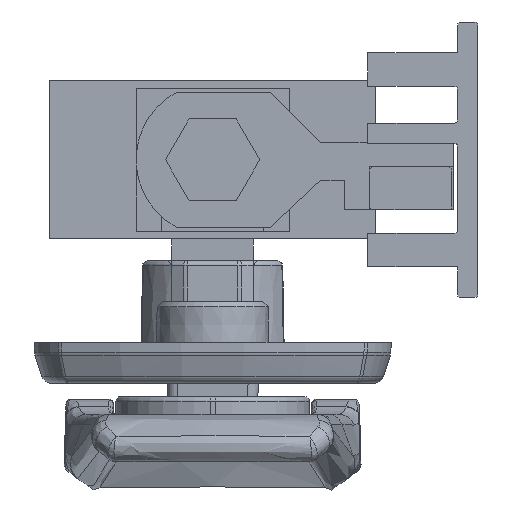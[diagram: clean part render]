
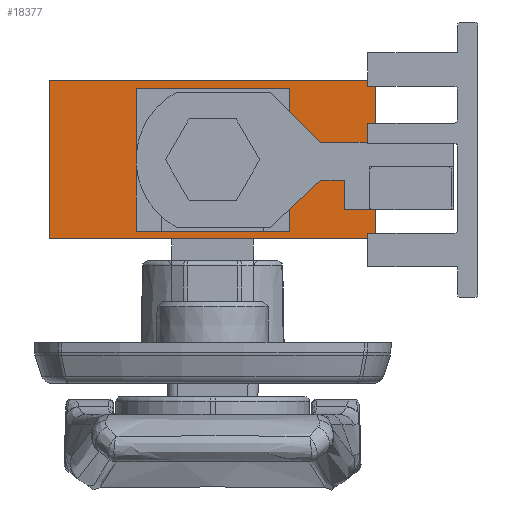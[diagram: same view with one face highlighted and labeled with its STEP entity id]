
A CAD part, front view. The second image highlights one B-rep face of the part: STEP entity #18377.
In plain terms, the highlighted planar face has unit normal (0, -1, 0).
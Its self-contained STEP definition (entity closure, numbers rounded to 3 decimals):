
#604 = LINE ( 'NONE', #27995, #14886 ) ;
#868 = EDGE_CURVE ( 'NONE', #3548, #5382, #5785, .T. ) ;
#1296 = CARTESIAN_POINT ( 'NONE',  ( -16., -199.25, -7.75 ) ) ;
#1352 = VERTEX_POINT ( 'NONE', #9110 ) ;
#1482 = FACE_BOUND ( 'NONE', #21635, .T. ) ;
#1522 = CARTESIAN_POINT ( 'NONE',  ( -16., -199.25, 7.75 ) ) ;
#1907 = VERTEX_POINT ( 'NONE', #15085 ) ;
#2316 = LINE ( 'NONE', #7864, #31371 ) ;
#2815 = DIRECTION ( 'NONE',  ( 0., 0., 1. ) ) ;
#3397 = EDGE_CURVE ( 'NONE', #19481, #3548, #2316, .T. ) ;
#3488 = CARTESIAN_POINT ( 'NONE',  ( 7., -199.25, 6.25 ) ) ;
#3548 = VERTEX_POINT ( 'NONE', #8327 ) ;
#4544 = VECTOR ( 'NONE', #9139, 1000. ) ;
#5382 = VERTEX_POINT ( 'NONE', #29354 ) ;
#5521 = VERTEX_POINT ( 'NONE', #1296 ) ;
#5785 = LINE ( 'NONE', #3488, #23484 ) ;
#5872 = VECTOR ( 'NONE', #10188, 1000. ) ;
#6346 = FACE_OUTER_BOUND ( 'NONE', #14421, .T. ) ;
#7296 = CARTESIAN_POINT ( 'NONE',  ( -7., -199.25, -6.25 ) ) ;
#7864 = CARTESIAN_POINT ( 'NONE',  ( 7., -199.25, 6.25 ) ) ;
#8327 = CARTESIAN_POINT ( 'NONE',  ( 7., -199.25, 6.25 ) ) ;
#8390 = DIRECTION ( 'NONE',  ( 1., 0., 0. ) ) ;
#9110 = CARTESIAN_POINT ( 'NONE',  ( 16., -199.25, 7.75 ) ) ;
#9139 = DIRECTION ( 'NONE',  ( 0., 0., -1. ) ) ;
#9334 = EDGE_CURVE ( 'NONE', #1352, #1907, #30879, .T. ) ;
#9442 = LINE ( 'NONE', #1522, #20893 ) ;
#10026 = CARTESIAN_POINT ( 'NONE',  ( -16., -199.25, -7.75 ) ) ;
#10188 = DIRECTION ( 'NONE',  ( 1., 0., 0. ) ) ;
#11391 = PLANE ( 'NONE',  #14214 ) ;
#13685 = CARTESIAN_POINT ( 'NONE',  ( -16., -199.25, 7.75 ) ) ;
#13744 = DIRECTION ( 'NONE',  ( 0., 0., -1. ) ) ;
#14214 = AXIS2_PLACEMENT_3D ( 'NONE', #13685, #31290, #21517 ) ;
#14421 = EDGE_LOOP ( 'NONE', ( #29186, #16056, #32171, #22277 ) ) ;
#14886 = VECTOR ( 'NONE', #8390, 1000. ) ;
#15085 = CARTESIAN_POINT ( 'NONE',  ( 16., -199.25, -7.75 ) ) ;
#15573 = ORIENTED_EDGE ( 'NONE', *, *, #868, .F. ) ;
#15752 = DIRECTION ( 'NONE',  ( -1., 0., 0. ) ) ;
#15828 = EDGE_CURVE ( 'NONE', #18801, #1352, #9442, .T. ) ;
#15894 = ORIENTED_EDGE ( 'NONE', *, *, #3397, .F. ) ;
#16056 = ORIENTED_EDGE ( 'NONE', *, *, #9334, .F. ) ;
#17142 = ORIENTED_EDGE ( 'NONE', *, *, #28074, .F. ) ;
#18377 = ADVANCED_FACE ( 'NONE', ( #1482, #6346 ), #11391, .F. ) ;
#18547 = EDGE_CURVE ( 'NONE', #5382, #28829, #29176, .T. ) ;
#18801 = VERTEX_POINT ( 'NONE', #29460 ) ;
#19481 = VERTEX_POINT ( 'NONE', #27486 ) ;
#20893 = VECTOR ( 'NONE', #26777, 1000. ) ;
#21517 = DIRECTION ( 'NONE',  ( 0., 0., 1. ) ) ;
#21635 = EDGE_LOOP ( 'NONE', ( #31863, #15573, #15894, #17142 ) ) ;
#22277 = ORIENTED_EDGE ( 'NONE', *, *, #30373, .T. ) ;
#23117 = VECTOR ( 'NONE', #29335, 1000. ) ;
#23484 = VECTOR ( 'NONE', #15752, 1000. ) ;
#23710 = CARTESIAN_POINT ( 'NONE',  ( 16., -199.25, 7.75 ) ) ;
#26777 = DIRECTION ( 'NONE',  ( 1., 0., 0. ) ) ;
#27486 = CARTESIAN_POINT ( 'NONE',  ( 7., -199.25, -6.25 ) ) ;
#27856 = VECTOR ( 'NONE', #13744, 1000. ) ;
#27995 = CARTESIAN_POINT ( 'NONE',  ( -7., -199.25, -6.25 ) ) ;
#28074 = EDGE_CURVE ( 'NONE', #28829, #19481, #604, .T. ) ;
#28285 = LINE ( 'NONE', #28609, #27856 ) ;
#28609 = CARTESIAN_POINT ( 'NONE',  ( -16., -199.25, 7.75 ) ) ;
#28829 = VERTEX_POINT ( 'NONE', #30632 ) ;
#29131 = EDGE_CURVE ( 'NONE', #5521, #1907, #29792, .T. ) ;
#29176 = LINE ( 'NONE', #7296, #23117 ) ;
#29186 = ORIENTED_EDGE ( 'NONE', *, *, #29131, .T. ) ;
#29335 = DIRECTION ( 'NONE',  ( 0., 0., -1. ) ) ;
#29354 = CARTESIAN_POINT ( 'NONE',  ( -7., -199.25, 6.25 ) ) ;
#29460 = CARTESIAN_POINT ( 'NONE',  ( -16., -199.25, 7.75 ) ) ;
#29792 = LINE ( 'NONE', #10026, #5872 ) ;
#30373 = EDGE_CURVE ( 'NONE', #18801, #5521, #28285, .T. ) ;
#30632 = CARTESIAN_POINT ( 'NONE',  ( -7., -199.25, -6.25 ) ) ;
#30879 = LINE ( 'NONE', #23710, #4544 ) ;
#31290 = DIRECTION ( 'NONE',  ( 0., 1., 0. ) ) ;
#31371 = VECTOR ( 'NONE', #2815, 1000. ) ;
#31863 = ORIENTED_EDGE ( 'NONE', *, *, #18547, .F. ) ;
#32171 = ORIENTED_EDGE ( 'NONE', *, *, #15828, .F. ) ;
